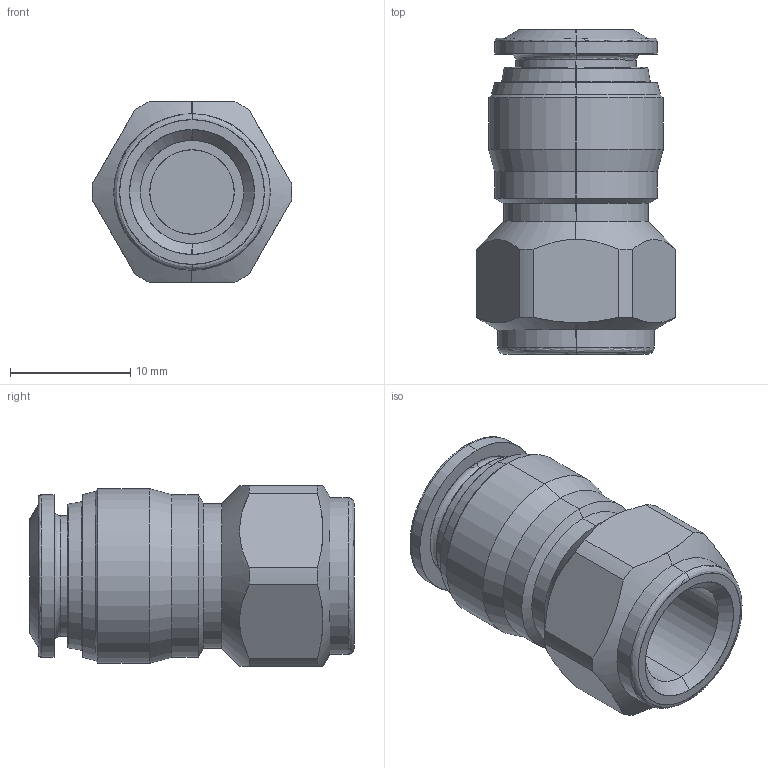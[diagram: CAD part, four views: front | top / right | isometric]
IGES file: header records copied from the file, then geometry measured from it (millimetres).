
Start section: SolidWorks IGES file using analytic representation for surfaces
Global section: file name: K:\Disegni Esecutivi\Serie 57000\ASSIEMI_57000\57030\ASSIEMI_PIENI_57030\5703000004.IGS; native system: SolidWorks 2007; preprocessor: SolidWorks 2007; author: cad02; date: 080201.143434; units: millimetre
Bounding box: 16.59 x 26.9 x 15 mm (x, y, z)
Surface area: 2049.3 mm2 (no closed solid volume)
Topology: 0 solids, 0 shells, 84 faces, 944 edges, 942 vertices
Faces by surface type: revolution 54, bspline 30
